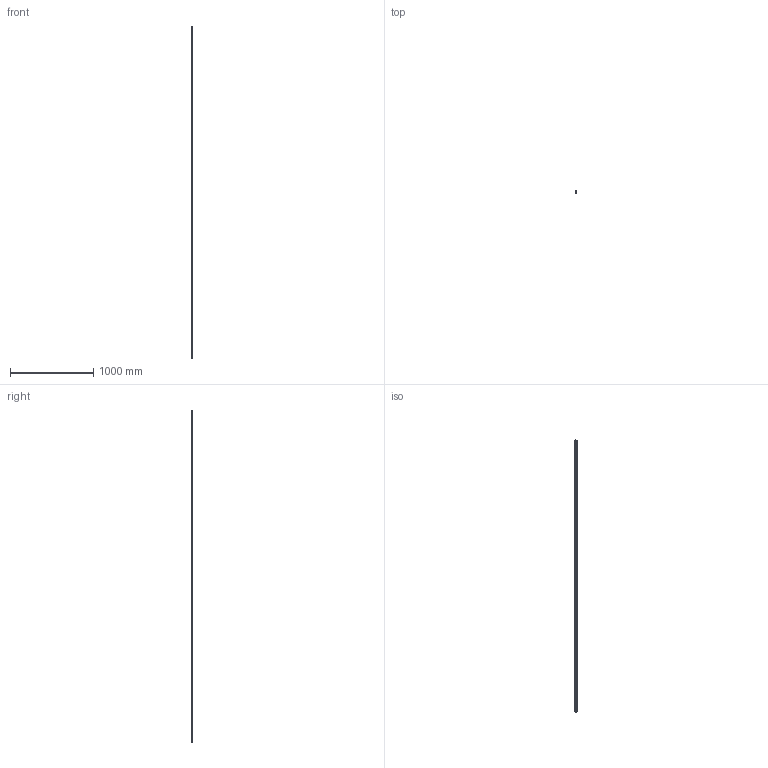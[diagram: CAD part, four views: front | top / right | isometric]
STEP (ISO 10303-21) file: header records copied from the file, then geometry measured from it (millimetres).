
FILE_DESCRIPTION((''),'2;1');
FILE_NAME('ROLLENSCHIENE_C','2021-12-23T05:31:26',('ac91sw'),(''),'CREO PARAMETRIC BY PTC INC, 2020044','CREO PARAMETRIC BY PTC INC, 2020044','');
FILE_SCHEMA(('AUTOMOTIVE_DESIGN { 1 0 10303 214 1 1 1 1 }'));
Length unit declared in the file: millimetre
Products named in the file (3): ROLLENSCHIENE_C_SKEL; ROLLENSCHIENE_C_RAIL1; ROLLENSCHIENE_C
Assembly tree (2 placements, depth 2):
  ROLLENSCHIENE_C
    ROLLENSCHIENE_C_SKEL
    ROLLENSCHIENE_C_RAIL1
Bounding box: 23 x 23.4 x 3986 mm (x, y, z)
Volume: 1434857.7 mm3; surface area: 457367.3 mm2
Topology: 1 solids, 1 shells, 733 faces, 2023 edges, 1820 vertices
Faces by surface type: cylinder 536, plane 193, cone 4
Entity records: 25144 total; most frequent: DIRECTION 4615, CARTESIAN_POINT 4136, ORIENTED_EDGE 3510, AXIS2_PLACEMENT_3D 1836, EDGE_CURVE 1755, VERTEX_POINT 1157, EDGE_LOOP 1134, CIRCLE 1074
